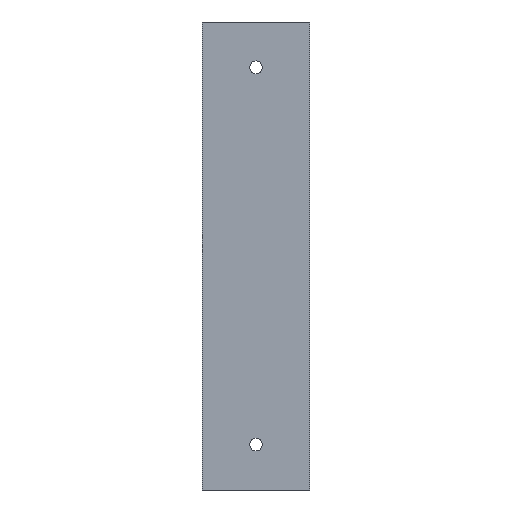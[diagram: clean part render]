
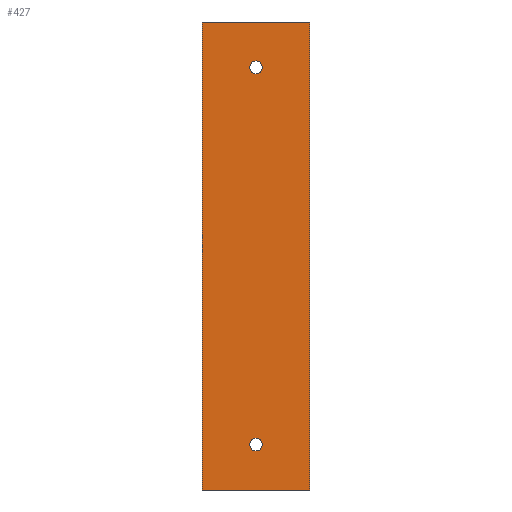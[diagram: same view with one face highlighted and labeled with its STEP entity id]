
A CAD part, left-side view. The second image highlights one B-rep face of the part: STEP entity #427.
In plain terms, the highlighted planar face has unit normal (-1, 0, 0).
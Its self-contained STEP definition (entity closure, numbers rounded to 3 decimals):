
#1 = EDGE_CURVE ( 'NONE', #167, #44, #294, .T. ) ;
#2 = EDGE_CURVE ( 'NONE', #161, #182, #338, .T. ) ;
#3 = EDGE_CURVE ( 'NONE', #189, #170, #375, .T. ) ;
#14 = EDGE_CURVE ( 'NONE', #164, #167, #345, .T. ) ;
#17 = EDGE_CURVE ( 'NONE', #182, #161, #332, .T. ) ;
#24 = EDGE_CURVE ( 'NONE', #170, #189, #355, .T. ) ;
#28 = EDGE_CURVE ( 'NONE', #166, #164, #354, .T. ) ;
#31 = EDGE_CURVE ( 'NONE', #44, #166, #315, .T. ) ;
#39 = DIRECTION ( 'NONE',  ( 0., 0., -1. ) ) ;
#44 = VERTEX_POINT ( 'NONE', #91 ) ;
#55 = DIRECTION ( 'NONE',  ( 0., 0., 1. ) ) ;
#59 = CARTESIAN_POINT ( 'NONE',  ( -4., 0., 50.25 ) ) ;
#70 = DIRECTION ( 'NONE',  ( 1., 0., 0. ) ) ;
#72 = DIRECTION ( 'NONE',  ( 0., 0., -1. ) ) ;
#80 = DIRECTION ( 'NONE',  ( 0., 0., -1. ) ) ;
#90 = DIRECTION ( 'NONE',  ( 1., 0., 0. ) ) ;
#91 = CARTESIAN_POINT ( 'NONE',  ( -4., 14.875, 64.5 ) ) ;
#93 = CARTESIAN_POINT ( 'NONE',  ( -4., -14.875, 64.5 ) ) ;
#105 = CARTESIAN_POINT ( 'NONE',  ( -4., -14.875, 64.5 ) ) ;
#122 = CARTESIAN_POINT ( 'NONE',  ( -4., 0., -52. ) ) ;
#124 = CARTESIAN_POINT ( 'NONE',  ( -4., 0., -50.25 ) ) ;
#131 = DIRECTION ( 'NONE',  ( 0., 1., 0. ) ) ;
#133 = DIRECTION ( 'NONE',  ( 0., 0., -1. ) ) ;
#145 = DIRECTION ( 'NONE',  ( 1., 0., 0. ) ) ;
#146 = DIRECTION ( 'NONE',  ( 0., 0., -1. ) ) ;
#148 = CARTESIAN_POINT ( 'NONE',  ( -4., 14.875, -64.5 ) ) ;
#150 = CARTESIAN_POINT ( 'NONE',  ( -4., 14.875, 64.5 ) ) ;
#155 = CARTESIAN_POINT ( 'NONE',  ( -4., -14.875, -64.5 ) ) ;
#161 = VERTEX_POINT ( 'NONE', #188 ) ;
#164 = VERTEX_POINT ( 'NONE', #155 ) ;
#166 = VERTEX_POINT ( 'NONE', #105 ) ;
#167 = VERTEX_POINT ( 'NONE', #186 ) ;
#170 = VERTEX_POINT ( 'NONE', #181 ) ;
#179 = DIRECTION ( 'NONE',  ( 1., 0., 0. ) ) ;
#181 = CARTESIAN_POINT ( 'NONE',  ( -4., 0., 53.75 ) ) ;
#182 = VERTEX_POINT ( 'NONE', #124 ) ;
#184 = CARTESIAN_POINT ( 'NONE',  ( -4., 14.875, 64.5 ) ) ;
#185 = DIRECTION ( 'NONE',  ( 0., -1., 0. ) ) ;
#186 = CARTESIAN_POINT ( 'NONE',  ( -4., 14.875, -64.5 ) ) ;
#188 = CARTESIAN_POINT ( 'NONE',  ( -4., 0., -53.75 ) ) ;
#189 = VERTEX_POINT ( 'NONE', #59 ) ;
#194 = CARTESIAN_POINT ( 'NONE',  ( -4., 0., -52. ) ) ;
#200 = CARTESIAN_POINT ( 'NONE',  ( -4., 0., 52. ) ) ;
#205 = CARTESIAN_POINT ( 'NONE',  ( -4., 0., 52. ) ) ;
#207 = DIRECTION ( 'NONE',  ( 1., 0., 0. ) ) ;
#212 = DIRECTION ( 'NONE',  ( 0., 0., -1. ) ) ;
#213 = PLANE ( 'NONE',  #403 ) ;
#214 = CARTESIAN_POINT ( 'NONE',  ( -4., -14.875, -64.5 ) ) ;
#237 = EDGE_LOOP ( 'NONE', ( #268, #272 ) ) ;
#243 = EDGE_LOOP ( 'NONE', ( #290, #285 ) ) ;
#261 = EDGE_LOOP ( 'NONE', ( #291, #271, #270, #269 ) ) ;
#268 = ORIENTED_EDGE ( 'NONE', *, *, #3, .T. ) ;
#269 = ORIENTED_EDGE ( 'NONE', *, *, #1, .F. ) ;
#270 = ORIENTED_EDGE ( 'NONE', *, *, #31, .F. ) ;
#271 = ORIENTED_EDGE ( 'NONE', *, *, #28, .F. ) ;
#272 = ORIENTED_EDGE ( 'NONE', *, *, #24, .T. ) ;
#285 = ORIENTED_EDGE ( 'NONE', *, *, #17, .T. ) ;
#290 = ORIENTED_EDGE ( 'NONE', *, *, #2, .T. ) ;
#291 = ORIENTED_EDGE ( 'NONE', *, *, #14, .F. ) ;
#294 = LINE ( 'NONE', #150, #342 ) ;
#307 = VECTOR ( 'NONE', #185, 1000. ) ;
#309 = FACE_OUTER_BOUND ( 'NONE', #261, .T. ) ;
#310 = FACE_BOUND ( 'NONE', #237, .T. ) ;
#311 = FACE_BOUND ( 'NONE', #243, .T. ) ;
#315 = LINE ( 'NONE', #184, #307 ) ;
#332 = CIRCLE ( 'NONE', #414, 1.75 ) ;
#338 = CIRCLE ( 'NONE', #389, 1.75 ) ;
#342 = VECTOR ( 'NONE', #55, 1000. ) ;
#345 = LINE ( 'NONE', #148, #346 ) ;
#346 = VECTOR ( 'NONE', #131, 1000. ) ;
#351 = VECTOR ( 'NONE', #80, 1000. ) ;
#354 = LINE ( 'NONE', #93, #351 ) ;
#355 = CIRCLE ( 'NONE', #411, 1.75 ) ;
#375 = CIRCLE ( 'NONE', #420, 1.75 ) ;
#389 = AXIS2_PLACEMENT_3D ( 'NONE', #194, #90, #39 ) ;
#403 = AXIS2_PLACEMENT_3D ( 'NONE', #214, #70, #72 ) ;
#411 = AXIS2_PLACEMENT_3D ( 'NONE', #205, #207, #212 ) ;
#414 = AXIS2_PLACEMENT_3D ( 'NONE', #122, #145, #146 ) ;
#420 = AXIS2_PLACEMENT_3D ( 'NONE', #200, #179, #133 ) ;
#427 = ADVANCED_FACE ( 'NONE', ( #311, #310, #309 ), #213, .F. ) ;
